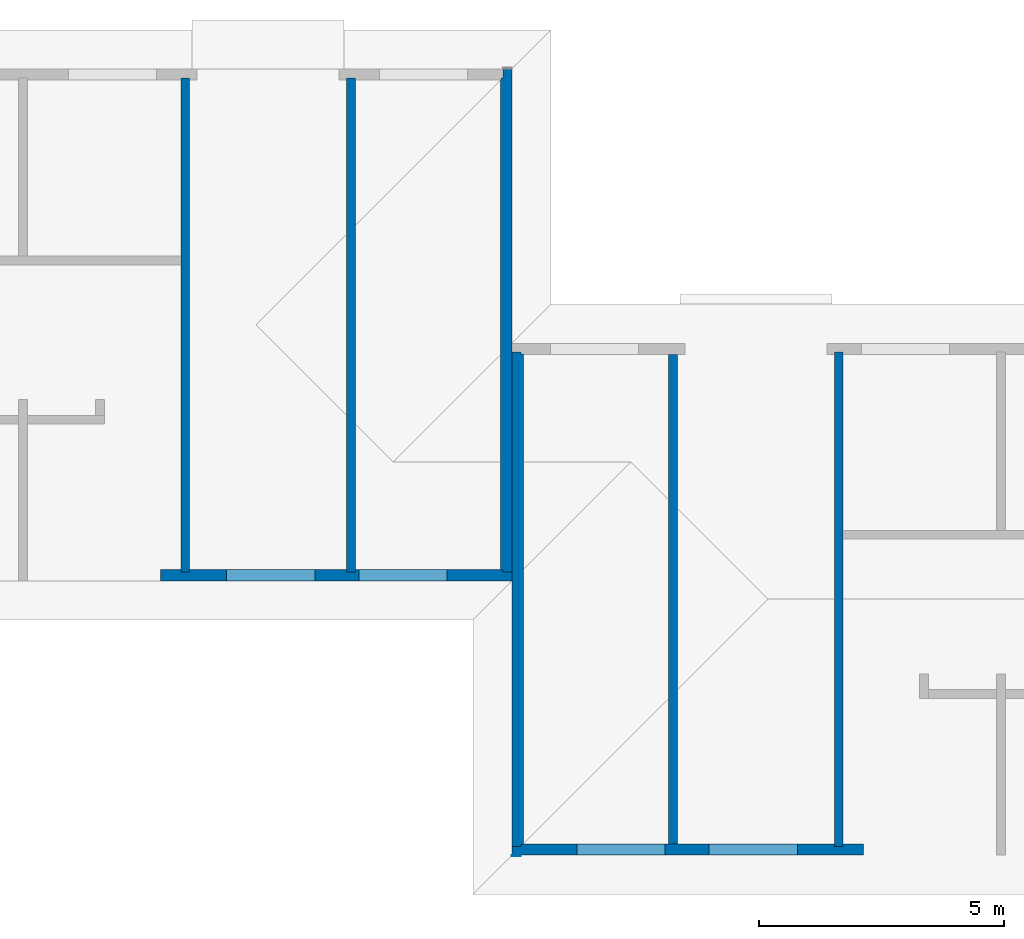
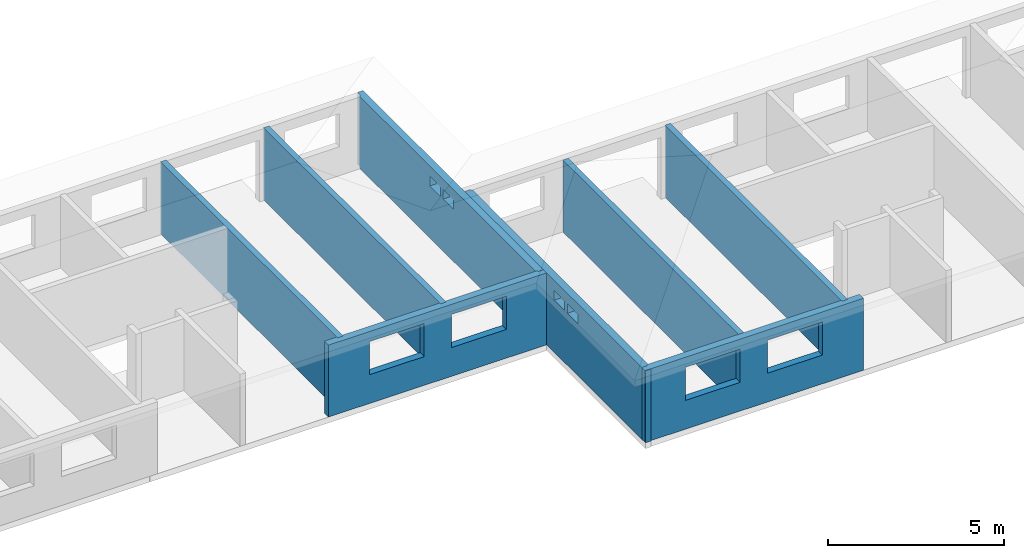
# One storey, part 7 of 9: 9 walls, 8 openings.
"""IFC2X3 building model written with IfcOpenShell, lengths in millimetres."""

from ifc_helpers import new_model, entity, si_unit, converted_unit, frame, frame_2d, origin, origin_with_axes, place, context, subcontext, project, spatial, polyline, rectangle, outline, extrude, material, layer, layer_set, layer_usage, element, save


model = new_model("IFC2X3")

# Units and contexts
model_context = context("Model", 3, precision=1e-05, world=origin())
plan_context = context("Plan", 3, precision=1e-05, world=origin())
body_context = subcontext(model_context, "Body", "Model", "MODEL_VIEW")
ifc_project = project(units=[si_unit("LENGTHUNIT", "METRE", prefix="MILLI"), converted_unit("PLANEANGLEUNIT", "DEGREE", entity("IfcPlaneAngleMeasure", 0.0174532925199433), si_unit("PLANEANGLEUNIT", "RADIAN"), dimensions=[0, 0, 0, 0, 0, 0, 0]), si_unit("AREAUNIT", "SQUARE_METRE"), si_unit("VOLUMEUNIT", "CUBIC_METRE")], contexts=[model_context, plan_context])

# Building, storey
building_placement = place(None, origin())
building = spatial("IfcBuilding", under=ifc_project, at=building_placement, Name="Bâtiment", CompositionType="ELEMENT")
storey_placement = place(building_placement, frame((0.0, 0.0, 8100.0), z_axis=(0.0, 0.0, 1.0), x_axis=(1.0, 0.0, 0.0)))
storey = spatial("IfcBuildingStorey", under=building, at=storey_placement, Name="r+3", CompositionType="ELEMENT", Elevation=8100.0)

# Wall, openings
ifc_material_1 = material(Name="moellons")
ifc_layer_1 = layer(ifc_material_1, 180.0)
ifc_material_2 = material(Name="briquettes")
ifc_layer_2 = layer(ifc_material_2, 40.0)
ifc_material_3 = material(Name="enduit platre")
ifc_layer_3 = layer(ifc_material_3, 10.0)
ifc_layer_set_1 = layer_set([ifc_layer_1, ifc_layer_2, ifc_layer_3])
ifc_layer_usage_1 = layer_usage(ifc_layer_set_1, "AXIS2", "POSITIVE", 0.0)
wall_1_placement = place(storey_placement, frame((39699.99999999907, 200.0775509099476, -9.094947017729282e-13), z_axis=(0.0, 0.0, 1.0), x_axis=(0.0, 1.0, 0.0)))
wall_1 = element("IfcWallStandardCase", 1, at=wall_1_placement, inside=storey, material=ifc_layer_usage_1, context=body_context, shape_type="SweptSolid", body=[
    extrude(outline(polyline([(0.0, 0.0), (10270.00021457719, 0.0), (10270.00021457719, 180.0), (10090.00021457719, 180.0), (10090.00021457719, 220.0), (10050.00021457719, 220.0), (10050.00021457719, 230.0), (50.0, 230.0), (50.0, 220.0), (40.0, 220.0), (40.0, 180.0), (0.0, 180.0), (0.0, 0.0)])), origin_with_axes(), (0.0, 0.0, 1.0), 2500.000000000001),
])
opening_1_placement = place(wall_1_placement, frame((4720.000214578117, 0.0, 1810.000000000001), z_axis=(0.0, 1.0, 0.0), x_axis=(0.0, 0.0, 1.0)))
element("IfcOpeningElement", 2, at=opening_1_placement, cuts=wall_1, Name="Baie de fenêtre", ObjectType="Opening", context=body_context, shape_type="SweptSolid", body=[
    extrude(rectangle(XDim=340.0, YDim=600.0, at=frame_2d((170.0, 300.0), x_axis=(1.0, 0.0))), origin_with_axes(), (0.0, 0.0, 1.0), 230.0),
])
opening_2_placement = place(wall_1_placement, frame((5470.000214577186, 0.0, 1810.000000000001), z_axis=(0.0, 1.0, 0.0), x_axis=(0.0, 0.0, 1.0)))
element("IfcOpeningElement", 3, at=opening_2_placement, cuts=wall_1, Name="Baie de fenêtre", ObjectType="Opening", context=body_context, shape_type="SweptSolid", body=[
    extrude(rectangle(XDim=340.0, YDim=600.0, at=frame_2d((170.0, 300.0), x_axis=(1.0, 0.0))), origin_with_axes(), (0.0, 0.0, 1.0), 230.0),
])

ifc_material_4 = material(Name="moellons")
ifc_layer_4 = layer(ifc_material_4, 180.0)
ifc_material_5 = material(Name="briquettes")
ifc_layer_5 = layer(ifc_material_5, 40.0)
ifc_material_6 = material(Name="enduit platre")
ifc_layer_6 = layer(ifc_material_6, 10.0)
ifc_layer_set_2 = layer_set([ifc_layer_4, ifc_layer_5, ifc_layer_6])
ifc_layer_usage_2 = layer_usage(ifc_layer_set_2, "AXIS2", "POSITIVE", 0.0)
wall_2_placement = place(storey_placement, frame((39699.99999999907, 4690.077765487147, 0.0), z_axis=(0.0, 0.0, 1.0), x_axis=(0.0, -1.0, 0.0)))
wall_2 = element("IfcWallStandardCase", 4, at=wall_2_placement, inside=storey, material=ifc_layer_usage_2, context=body_context, shape_type="SweptSolid", body=[
    extrude(outline(polyline([(40.0, 180.0), (0.0, 180.0), (0.0, 0.0), (10090.00021457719, 0.0), (10090.00021457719, 180.0), (10050.00021457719, 180.0), (10050.00021457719, 220.0), (10040.00021457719, 220.0), (10040.00021457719, 230.0), (40.0, 230.0), (40.0, 180.0)])), origin_with_axes(), (0.0, 0.0, 1.0), 2500.0),
])
opening_3_placement = place(wall_2_placement, frame((5093.000286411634, 0.0, 1810.0), z_axis=(0.0, 1.0, 0.0), x_axis=(0.0, 0.0, 1.0)))
element("IfcOpeningElement", 5, at=opening_3_placement, cuts=wall_2, Name="Baie de fenêtre", ObjectType="Opening", context=body_context, shape_type="SweptSolid", body=[
    extrude(rectangle(XDim=340.0, YDim=600.0, at=frame_2d((170.0, 300.0), x_axis=(1.0, 0.0))), origin_with_axes(), (0.0, 0.0, 1.0), 230.0),
])
opening_4_placement = place(wall_2_placement, frame((5845.00021457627, 0.0, 1810.0), z_axis=(0.0, 1.0, 0.0), x_axis=(0.0, 0.0, 1.0)))
element("IfcOpeningElement", 6, at=opening_4_placement, cuts=wall_2, Name="Baie de fenêtre", ObjectType="Opening", context=body_context, shape_type="SweptSolid", body=[
    extrude(rectangle(XDim=340.0, YDim=600.0, at=frame_2d((170.0, 300.0), x_axis=(1.0, 0.0))), origin_with_axes(), (0.0, 0.0, 1.0), 230.0),
])

ifc_material_7 = material(Name="moellons")
ifc_layer_7 = layer(ifc_material_7, 180.0)
ifc_material_8 = material(Name="briquettes")
ifc_layer_8 = layer(ifc_material_8, 40.0)
ifc_material_9 = material(Name="enduit platre")
ifc_layer_9 = layer(ifc_material_9, 10.0)
ifc_layer_set_3 = layer_set([ifc_layer_7, ifc_layer_8, ifc_layer_9])
ifc_layer_usage_3 = layer_usage(ifc_layer_set_3, "AXIS2", "POSITIVE", 0.0)
wall_3_placement = place(storey_placement, frame((32525.00054685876, 20.0775509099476, -9.094947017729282e-13), z_axis=(0.0, 0.0, 1.0), x_axis=(1.0, 0.0, 0.0)))
wall_3 = element("IfcWallStandardCase", 7, at=wall_3_placement, inside=storey, material=ifc_layer_usage_3, context=body_context, shape_type="SweptSolid", body=[
    extrude(outline(polyline([(0.0, 0.0), (7174.99945314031, 0.0), (7174.99945314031, 180.0), (6994.99945314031, 180.0), (6994.99945314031, 220.0), (6954.99945314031, 220.0), (6954.99945314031, 230.0), (3974.999453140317, 230.0), (3974.999453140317, 180.0), (3794.999453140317, 180.0), (3794.999453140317, 230.0), (594.9994531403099, 230.0), (594.9994531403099, 180.0), (414.9994531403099, 180.0), (414.9994531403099, 230.0), (0.0, 230.0), (0.0, 0.0)])), origin_with_axes(), (0.0, 0.0, 1.0), 2500.000000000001),
])
opening_5_placement = place(wall_3_placement, frame((4049.999453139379, 0.0, 1000.000000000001), z_axis=(0.0, 1.0, 0.0), x_axis=(0.0, 0.0, 1.0)))
element("IfcOpeningElement", 8, at=opening_5_placement, cuts=wall_3, Name="Baie de fenêtre", ObjectType="Opening", context=body_context, shape_type="SweptSolid", body=[
    extrude(rectangle(XDim=1150.0, YDim=1800.0, at=frame_2d((575.0, 900.0), x_axis=(1.0, 0.0))), origin_with_axes(), (0.0, 0.0, 1.0), 230.0),
])
opening_6_placement = place(wall_3_placement, frame((1349.999453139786, 0.0, 1000.000000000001), z_axis=(0.0, 1.0, 0.0), x_axis=(0.0, 0.0, 1.0)))
element("IfcOpeningElement", 9, at=opening_6_placement, cuts=wall_3, Name="Baie de fenêtre", ObjectType="Opening", context=body_context, shape_type="SweptSolid", body=[
    extrude(rectangle(XDim=1150.0, YDim=1800.0, at=frame_2d((575.0, 900.0), x_axis=(1.0, 0.0))), origin_with_axes(), (0.0, 0.0, 1.0), 230.0),
])

ifc_material_10 = material(Name="moellons")
ifc_layer_10 = layer(ifc_material_10, 180.0)
ifc_material_11 = material(Name="briquettes")
ifc_layer_11 = layer(ifc_material_11, 40.0)
ifc_material_12 = material(Name="enduit platre")
ifc_layer_12 = layer(ifc_material_12, 10.0)
ifc_layer_set_4 = layer_set([ifc_layer_10, ifc_layer_11, ifc_layer_12])
ifc_layer_usage_4 = layer_usage(ifc_layer_set_4, "AXIS2", "POSITIVE", 0.0)
wall_4_placement = place(storey_placement, frame((39699.99999999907, -5579.922449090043, 0.0), z_axis=(0.0, 0.0, 1.0), x_axis=(1.0, 0.0, 0.0)))
wall_4 = element("IfcWallStandardCase", 10, at=wall_4_placement, inside=storey, material=ifc_layer_usage_4, context=body_context, shape_type="SweptSolid", body=[
    extrude(outline(polyline([(6760.000000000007, 230.0), (6760.000000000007, 180.0), (6580.000000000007, 180.0), (6580.000000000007, 230.0), (220.0, 230.0), (220.0, 220.0), (180.0, 220.0), (180.0, 180.0), (0.0, 180.0), (0.0, 0.0), (7175.000546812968, 0.0), (7175.000546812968, 230.0), (6760.000000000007, 230.0)])), origin_with_axes(), (0.0, 0.0, 1.0), 2500.0),
])
opening_7_placement = place(wall_4_placement, frame((1324.999999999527, 0.0, 1000.0), z_axis=(0.0, 1.0, 0.0), x_axis=(0.0, 0.0, 1.0)))
element("IfcOpeningElement", 11, at=opening_7_placement, cuts=wall_4, Name="Baie de fenêtre", ObjectType="Opening", context=body_context, shape_type="SweptSolid", body=[
    extrude(rectangle(XDim=1150.0, YDim=1800.0, at=frame_2d((575.0, 900.0), x_axis=(1.0, 0.0))), origin_with_axes(), (0.0, 0.0, 1.0), 230.0),
])
opening_8_placement = place(wall_4_placement, frame((4024.999999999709, 0.0, 1000.0), z_axis=(0.0, 1.0, 0.0), x_axis=(0.0, 0.0, 1.0)))
element("IfcOpeningElement", 12, at=opening_8_placement, cuts=wall_4, Name="Baie de fenêtre", ObjectType="Opening", context=body_context, shape_type="SweptSolid", body=[
    extrude(rectangle(XDim=1150.0, YDim=1800.0, at=frame_2d((575.0, 900.0), x_axis=(1.0, 0.0))), origin_with_axes(), (0.0, 0.0, 1.0), 230.0),
])

# Walls
ifc_material_13 = material(Name="moellons")
ifc_layer_13 = layer(ifc_material_13, 180.0)
ifc_layer_set_5 = layer_set([ifc_layer_13])
ifc_layer_usage_5 = layer_usage(ifc_layer_set_5, "AXIS2", "POSITIVE", 0.0)
wall_5_placement = place(storey_placement, frame((33119.99999999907, 200.077550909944, 0.0), z_axis=(0.0, 0.0, 1.0), x_axis=(0.0, 1.0, 0.0)))
element("IfcWallStandardCase", 13, at=wall_5_placement, inside=storey, material=ifc_layer_usage_5, context=body_context, shape_type="SweptSolid", body=[
    extrude(rectangle(XDim=10090.00021457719, YDim=180.0, at=frame_2d((5045.000107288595, 90.0), x_axis=(1.0, 0.0))), origin_with_axes(), (0.0, 0.0, 1.0), 2500.0),
])
ifc_material_14 = material(Name="moellons")
ifc_layer_14 = layer(ifc_material_14, 180.0)
ifc_layer_set_6 = layer_set([ifc_layer_14])
ifc_layer_usage_6 = layer_usage(ifc_layer_set_6, "AXIS2", "POSITIVE", 0.0)
wall_6_placement = place(storey_placement, frame((36499.99999999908, 200.0775509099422, 0.0), z_axis=(0.0, 0.0, 1.0), x_axis=(0.0, 1.0, 0.0)))
element("IfcWallStandardCase", 14, at=wall_6_placement, inside=storey, material=ifc_layer_usage_6, context=body_context, shape_type="SweptSolid", body=[
    extrude(rectangle(XDim=10090.00021457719, YDim=180.0, at=frame_2d((5045.000107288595, 90.0), x_axis=(1.0, 0.0))), origin_with_axes(), (0.0, 0.0, 1.0), 2500.0),
])
ifc_material_15 = material(Name="moellons")
ifc_layer_15 = layer(ifc_material_15, 180.0)
ifc_layer_set_7 = layer_set([ifc_layer_15])
ifc_layer_usage_7 = layer_usage(ifc_layer_set_7, "AXIS2", "POSITIVE", 0.0)
wall_7_placement = place(storey_placement, frame((43079.99999999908, -5349.922449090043, 0.0), z_axis=(0.0, 0.0, 1.0), x_axis=(0.0, 1.0, 0.0)))
element("IfcWallStandardCase", 15, at=wall_7_placement, inside=storey, material=ifc_layer_usage_7, context=body_context, shape_type="SweptSolid", body=[
    extrude(rectangle(XDim=9990.00021457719, YDim=180.0, at=frame_2d((4995.000107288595, 90.0), x_axis=(1.0, 0.0))), origin_with_axes(), (0.0, 0.0, 1.0), 2500.0),
])
ifc_material_16 = material(Name="moellons")
ifc_layer_16 = layer(ifc_material_16, 180.0)
ifc_layer_set_8 = layer_set([ifc_layer_16])
ifc_layer_usage_8 = layer_usage(ifc_layer_set_8, "AXIS2", "POSITIVE", 0.0)
wall_8_placement = place(storey_placement, frame((46459.99999999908, -5399.922449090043, 0.0), z_axis=(0.0, 0.0, 1.0), x_axis=(0.0, 1.0, 0.0)))
element("IfcWallStandardCase", 16, at=wall_8_placement, inside=storey, material=ifc_layer_usage_8, context=body_context, shape_type="SweptSolid", body=[
    extrude(rectangle(XDim=10090.00021457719, YDim=180.0, at=frame_2d((5045.000107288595, 90.0), x_axis=(1.0, 0.0))), origin_with_axes(), (0.0, 0.0, 1.0), 2500.0),
])
ifc_material_17 = material(Name="moellons")
ifc_layer_17 = layer(ifc_material_17, 20.0775509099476)
ifc_layer_set_9 = layer_set([ifc_layer_17])
ifc_layer_usage_9 = layer_usage(ifc_layer_set_9, "AXIS2", "POSITIVE", 0.0)
wall_9_placement = place(storey_placement, frame((39699.99999999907, -5579.922449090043, 0.0), z_axis=(0.0, 0.0, 1.0), x_axis=(1.0, 0.0, 0.0)))
element("IfcWallStandardCase", 17, at=wall_9_placement, inside=storey, material=ifc_layer_usage_9, context=body_context, shape_type="SweptSolid", body=[
    extrude(rectangle(XDim=180.0, YDim=20.0775509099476, at=frame_2d((90.0, 10.0387754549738), x_axis=(1.0, 0.0))), frame((0.0, -20.0775509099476, 0.0), z_axis=(0.0, 0.0, 1.0), x_axis=(1.0, 0.0, 0.0)), (0.0, 0.0, 1.0), 2500.0),
])

save(model, "model.ifc")
